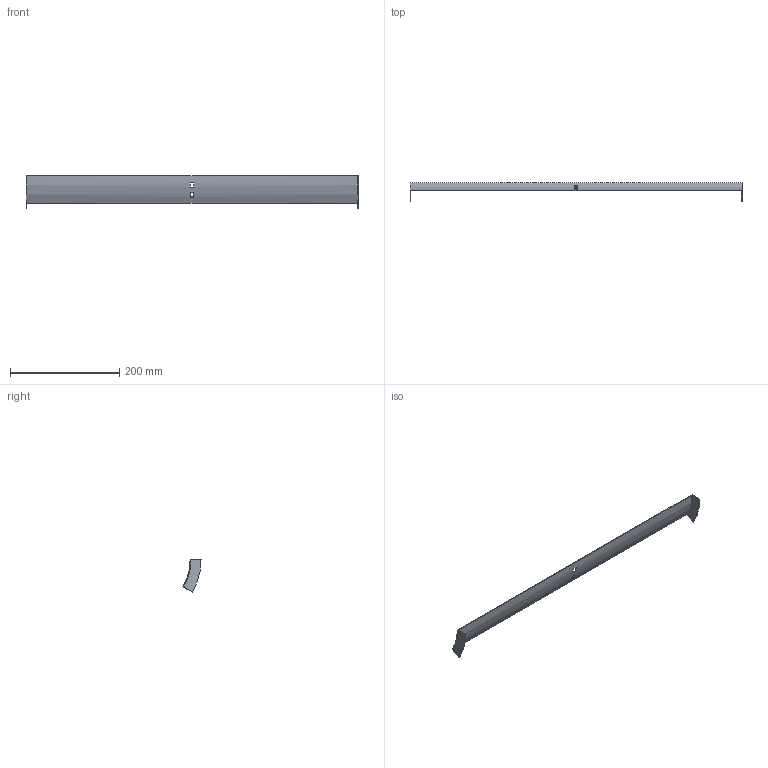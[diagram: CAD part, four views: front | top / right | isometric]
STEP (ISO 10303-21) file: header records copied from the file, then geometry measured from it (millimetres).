
FILE_DESCRIPTION (( 'STEP AP214' ), '1' );
FILE_NAME ('32N1R600.step', '2025-02-21T09:22:41', ( '' ), ( '' ), 'SwSTEP 2.0', 'SolidWorks 2023', '' );
FILE_SCHEMA (( 'AUTOMOTIVE_DESIGN' ));
Length unit declared in the file: millimetre
Products named in the file (1): 32N1R600
Bounding box: 607 x 33.2 x 59.25 mm (x, y, z)
Volume: 50312.8 mm3; surface area: 69295.1 mm2
Topology: 1 solids, 1 shells, 18 faces, 48 edges, 32 vertices
Faces by surface type: plane 14, cylinder 4
Entity records: 599 total; most frequent: DIRECTION 102, CARTESIAN_POINT 99, ORIENTED_EDGE 96, EDGE_CURVE 48, AXIS2_PLACEMENT_3D 35, LINE 32, VERTEX_POINT 32, VECTOR 32
